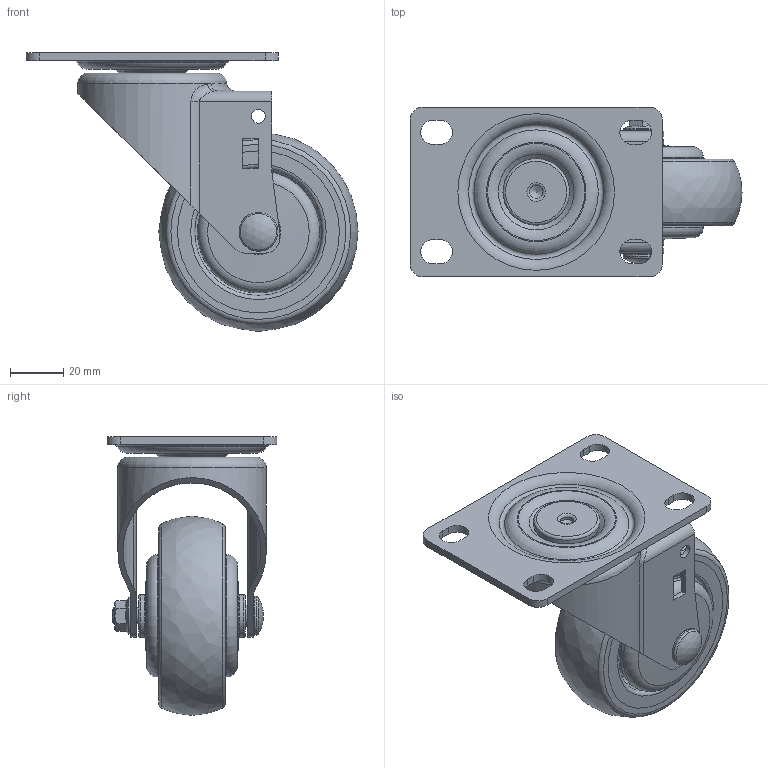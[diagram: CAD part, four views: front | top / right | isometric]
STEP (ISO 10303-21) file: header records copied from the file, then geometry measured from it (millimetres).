
FILE_DESCRIPTION((''),'2;1');
FILE_NAME('E:\GL-홈피용3D\3d step\가져온 구성요소\GL-75-ASF\GL-75-ASF.stp','2011-11-21T09:27:05',('Administrator'),(''),'Autodesk Inventor 2011','Autodesk Inventor 2011','');
FILE_SCHEMA(('AUTOMOTIVE_DESIGN { 1 0 10303 214 1 1 1 1 }'));
Length unit declared in the file: millimetre
Products named in the file (1): GL-75-ASF
Bounding box: 125 x 64 x 105 mm (x, y, z)
Volume: 135734.4 mm3; surface area: 83083.9 mm2
Topology: 7 solids, 12 shells, 312 faces, 718 edges, 461 vertices
Faces by surface type: plane 102, torus 89, cylinder 76, cone 28, bspline 16, sphere 1
Full cylindrical faces by diameter (mm): 5 x1, 5.2 x2, 6 x2, 6.2 x1, 7 x1, 8 x1, 8.2 x2, 11 x1, 11.1 x1, 11.2 x1, 14 x1, 14.6 x1, 15 x3, 16 x3, 21.667 x2, 21.867 x2, 24.645 x1, 25 x1, 28.133 x2, 28.333 x2, 32 x2, 34 x2, 38 x2, 41 x1, 43 x2, 46 x2, 48 x2, 61 x1, 61.001 x2
Entity records: 9016 total; most frequent: CARTESIAN_POINT 2862, DIRECTION 1318, ORIENTED_EDGE 982, AXIS2_PLACEMENT_3D 587, EDGE_LOOP 545, EDGE_CURVE 491, VERTEX_POINT 393, FACE_OUTER_BOUND 312
